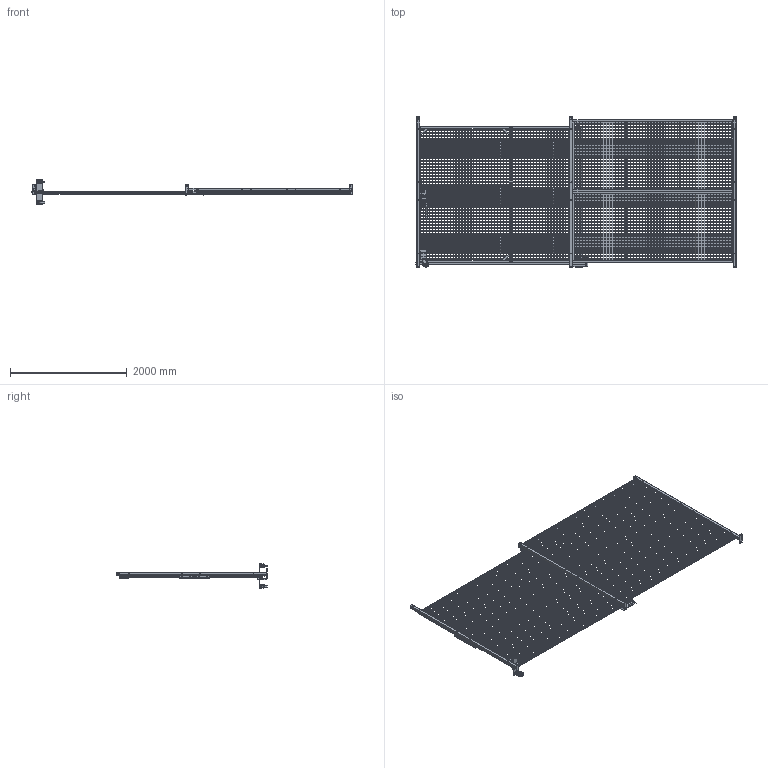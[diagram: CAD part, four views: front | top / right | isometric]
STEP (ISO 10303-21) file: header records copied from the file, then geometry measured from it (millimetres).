
FILE_DESCRIPTION (( 'STEP AP214' ), '1' );
FILE_NAME ('TD888RHI.STEP', '2021-04-01T13:02:39', ( '' ), ( '' ), 'SwSTEP 2.0', 'SolidWorks 2021', '' );
FILE_SCHEMA (( 'AUTOMOTIVE_DESIGN' ));
Length unit declared in the file: inch
Products named in the file (57): SDRECA; COMMON WIRE_10GA X 61; COMMON STRU ANGLE 11418_PX9; SDTDCP; COMMON MESH_MH94; COMMON MESH_MHSD5; SDRECB; SDTT4WH_NO BOLT; SDTCBKT; SUD12HANDLE; COMMON STRU ANGLE 11418_PXSD8PL; TDCASTER; SDLKRECT; FS12412TMS; Part9.stp; COMMON BASE PLATE_BP27; COMMON 840 POST_DP8P; COMMON WIRE_10GA X 90.5; COMMON WIRE_10GA X 107; COMMON 840 PANEL FRAME_94; SF-1 LATCH; COMMON FLAT BAR_PXSD5FH; COMMON FLAT BAR_PX4F; SUD12HNDLBPU; COMMON STRU ANGLE 11418_PXSD8PX; COMMON TD CAP_TDCAP9; COMMON STRU ANGLE 11418_PX4PC; POST CAP; Part13.stp; SDREC; HDLKPLATEB; SGDG12; COMMON MESH_SDL4; SDTDPBLTON; COMMON STRU ANGLE 11418_PXSD5PC; TD888RHI; COMMON 840 SD TRK ASSEMBLY_TDTRK9 RHI; SUD12HNDLWELD; TDZBKT; SDSCH412238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
Assembly tree (411 placements, depth 5):
  TD888RHI
    COMMON 840 POST WELD_DP8P  x3
      COMMON BASE PLATE_BP27
      COMMON 840 POST_DP8P
      POST CAP
    COMMON 840 SD TRK ASSEMBLY_TDTRK9 RHI
      COMMON SD TRK_TDTRK9
      SDTCBKT  x2
    COMMON 840 SLIDE DOOR SUB_TD98RH
      COMMON 840 SLIDE DOOR_SD5-RH
        COMMON STRU ANGLE 11418_PXSD5PC  x2
        COMMON STRU ANGLE 11418_PXSD8PX
        COMMON STRU ANGLE 11418_PXSD8PL
        HDLKPLATEF
        HDLKPLATEB
        COMMON FLAT BAR_PXSD5FH  x2
        COMMON FLAT BAR_PXSDFV  x2
        SDLKCOV
        COMMON MESH_MHSD5
          COMMON WIRE_10GA X 61  x91
          COMMON WIRE_10GA X 90.5  x31
        SF-1 LATCH
          SF-1 LATCH
          SB-1
        SDCGUS  x4
      COMMON 840 SLIDE DOOR_SDL4
        COMMON STRU ANGLE 11418_PXL4PC  x2
        COMMON STRU ANGLE 11418_PXSD8PX  x2
        COMMON MESH_SDL4
          COMMON WIRE_10GA X 47  x91
          COMMON WIRE_10GA X 90.5  x24
        COMMON FLAT BAR_PX4F
    SDTT4WH_CUT BOLT
      SDTT4WH_NO BOLT
      FS12412TMS
    SGDG12
    SDREC
      SDRECB
      SDLKRECT
      SDRECA
    COMMON SD COVER BAR_SDCB9
    SDTDPBLTON
    SDTDCP  x2
    SUD12HNDLWELD
      SUD12HANDLE
      SUD12HNDLBPU
    SUD12HNDLBPU
    TDZBKT
    TDCASTER  x2
      TDCASTER.stp
        Part9.stp
        Part11.stp
        Part13.stp
    COMMON 840 PANEL FRAME_94  x2
      COMMON STRU ANGLE 11418_PX9
      COMMON STRU ANGLE 11418_PX4PC
      COMMON FLAT BAR_PX4F
      COMMON MESH_MH94
        COMMON WIRE_10GA X 107  x47
        COMMON WIRE_10GA X 47  x54
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Bounding box: 5476.49 x 2575.56 x 420.99 mm (x, y, z)
Volume: 21466105.7 mm3; surface area: 18416407.5 mm2
Topology: 516 solids, 521 shells, 4108 faces, 8439 edges, 5444 vertices
Faces by surface type: plane 2380, cylinder 1294, cone 193, bspline 193, torus 44, sphere 4
Full cylindrical faces by diameter (mm): 3.429 x439, 5.182 x4, 6.35 x8, 9.525 x88, 11.112 x10, 11.113 x8, 12.7 x69, 14.021 x1, 14.046 x1, 14.287 x18, 19.05 x1, 34.049 x1, 35.687 x1, 38.862 x1, 44.704 x1, 45.822 x1, 47.625 x4, 50.8 x4, 53.975 x4, 57.15 x6, 60.325 x2, 101.6 x2
Entity records: 85159 total; most frequent: CARTESIAN_POINT 34081, DIRECTION 9591, ORIENTED_EDGE 9190, EDGE_CURVE 4607, AXIS2_PLACEMENT_3D 3356, VERTEX_POINT 3106, LINE 2879, VECTOR 2879
